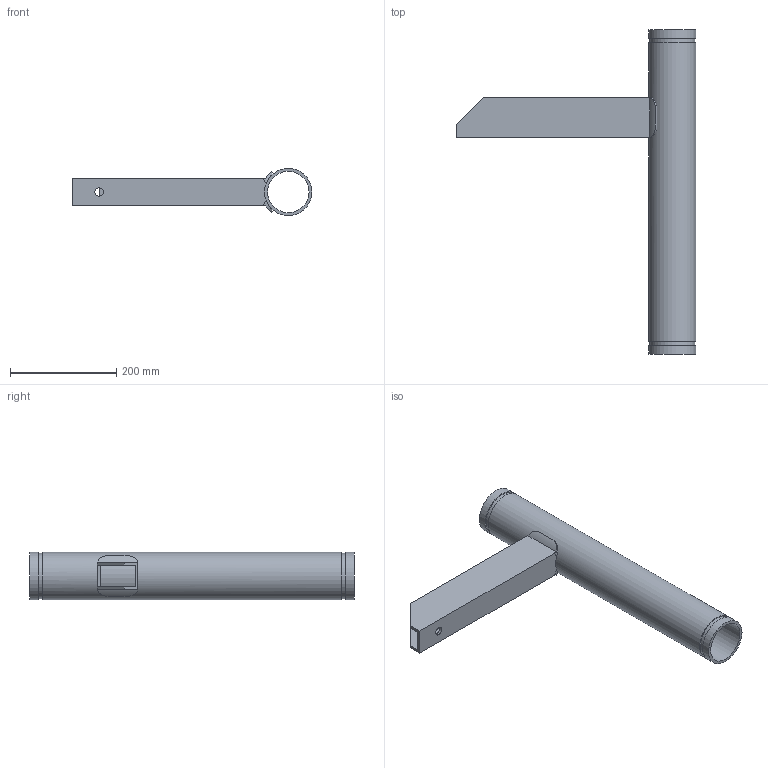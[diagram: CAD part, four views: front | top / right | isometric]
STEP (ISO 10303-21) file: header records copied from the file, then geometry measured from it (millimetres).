
FILE_DESCRIPTION(/* description */ ('VIC SS FLOOR MOUNTED RISER ANCHOR No A40S'),/* implementation_level */ '2;1');
FILE_NAME(/* name */ 'C:\Files for Export\A40 & A40S-STEP-SWX\STEP\Victaulic_SS-OGS_Riser Anchor_No A40S (OGS)\Victaulic_SS-OGS_Riser Anchor_No A40S (OGS)_3 (80).stp',/* time_stamp */ '2024-06-07T07:36:52+02:00',/* author */ ('kkamble'),/* organization */ ('Victaulic'),/* preprocessor_version */ 'ST-DEVELOPER v18.1',/* originating_system */ 'Autodesk Inventor 2020',/* authorisation */ '');
FILE_SCHEMA (('AUTOMOTIVE_DESIGN { 1 0 10303 214 3 1 1 }'));
Length unit declared in the file: inch
Products named in the file (1): A40S-03.0
Bounding box: 450.85 x 609.6 x 88.9 mm (x, y, z)
Volume: 1297723.5 mm3; surface area: 486121.3 mm2
Topology: 1 solids, 1 shells, 34 faces, 94 edges, 66 vertices
Faces by surface type: plane 20, cylinder 14
Full cylindrical faces by diameter (mm): 15.875 x1, 77.978 x1, 84.938 x2, 88.9 x3
Entity records: 1279 total; most frequent: CARTESIAN_POINT 291, DIRECTION 192, ORIENTED_EDGE 188, EDGE_CURVE 94, AXIS2_PLACEMENT_3D 71, VERTEX_POINT 66, LINE 50, VECTOR 50
